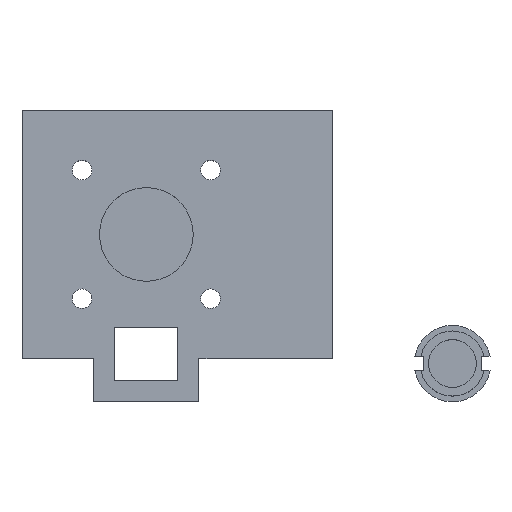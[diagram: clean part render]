
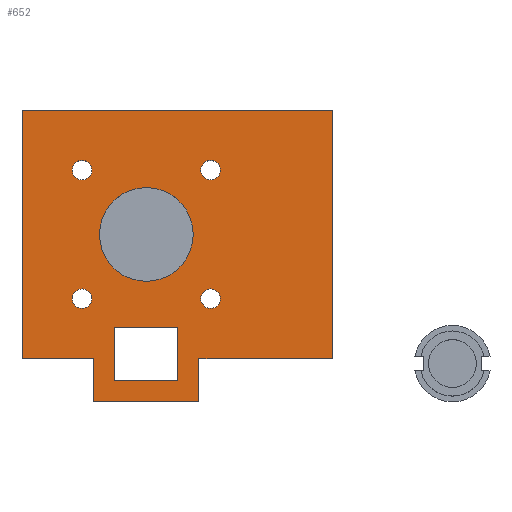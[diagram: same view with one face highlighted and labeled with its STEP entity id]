
A CAD part, top view. The second image highlights one B-rep face of the part: STEP entity #652.
In plain terms, the highlighted planar face has unit normal (0, 0, 1).
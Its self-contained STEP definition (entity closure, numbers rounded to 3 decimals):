
#17=FACE_BOUND('',#105,.T.);
#18=FACE_BOUND('',#106,.T.);
#19=FACE_BOUND('',#107,.T.);
#20=FACE_BOUND('',#108,.T.);
#21=FACE_BOUND('',#109,.T.);
#22=FACE_BOUND('',#110,.T.);
#37=PLANE('',#713);
#68=FACE_OUTER_BOUND('',#104,.T.);
#104=EDGE_LOOP('',(#498,#499,#500,#501,#502,#503,#504,#505));
#105=EDGE_LOOP('',(#506));
#106=EDGE_LOOP('',(#507));
#107=EDGE_LOOP('',(#508));
#108=EDGE_LOOP('',(#509));
#109=EDGE_LOOP('',(#510,#511,#512,#513));
#110=EDGE_LOOP('',(#514));
#143=LINE('',#958,#213);
#147=LINE('',#966,#217);
#150=LINE('',#972,#220);
#153=LINE('',#977,#223);
#159=LINE('',#994,#229);
#162=LINE('',#1000,#232);
#164=LINE('',#1005,#234);
#166=LINE('',#1009,#236);
#167=LINE('',#1011,#237);
#168=LINE('',#1013,#238);
#169=LINE('',#1015,#239);
#170=LINE('',#1016,#240);
#213=VECTOR('',#778,10.);
#217=VECTOR('',#784,10.);
#220=VECTOR('',#789,10.);
#223=VECTOR('',#794,10.);
#229=VECTOR('',#810,10.);
#232=VECTOR('',#815,10.);
#234=VECTOR('',#819,10.);
#236=VECTOR('',#823,10.);
#237=VECTOR('',#824,10.);
#238=VECTOR('',#825,10.);
#239=VECTOR('',#826,10.);
#240=VECTOR('',#827,10.);
#280=CIRCLE('',#692,2.05);
#282=CIRCLE('',#695,2.05);
#284=CIRCLE('',#698,2.05);
#286=CIRCLE('',#701,2.05);
#288=CIRCLE('',#708,9.8);
#300=VERTEX_POINT('',#934);
#302=VERTEX_POINT('',#940);
#304=VERTEX_POINT('',#946);
#306=VERTEX_POINT('',#952);
#307=VERTEX_POINT('',#956);
#308=VERTEX_POINT('',#957);
#311=VERTEX_POINT('',#965);
#313=VERTEX_POINT('',#971);
#316=VERTEX_POINT('',#982);
#318=VERTEX_POINT('',#988);
#320=VERTEX_POINT('',#992);
#322=VERTEX_POINT('',#998);
#323=VERTEX_POINT('',#1002);
#325=VERTEX_POINT('',#1008);
#326=VERTEX_POINT('',#1010);
#327=VERTEX_POINT('',#1012);
#328=VERTEX_POINT('',#1014);
#361=EDGE_CURVE('',#300,#300,#280,.T.);
#364=EDGE_CURVE('',#302,#302,#282,.T.);
#367=EDGE_CURVE('',#304,#304,#284,.T.);
#370=EDGE_CURVE('',#306,#306,#286,.T.);
#371=EDGE_CURVE('',#307,#308,#143,.T.);
#375=EDGE_CURVE('',#308,#311,#147,.T.);
#378=EDGE_CURVE('',#311,#313,#150,.T.);
#381=EDGE_CURVE('',#313,#307,#153,.T.);
#385=EDGE_CURVE('',#316,#316,#288,.T.);
#389=EDGE_CURVE('',#318,#320,#159,.T.);
#392=EDGE_CURVE('',#320,#322,#162,.T.);
#394=EDGE_CURVE('',#322,#323,#164,.T.);
#396=EDGE_CURVE('',#323,#325,#166,.T.);
#397=EDGE_CURVE('',#325,#326,#167,.T.);
#398=EDGE_CURVE('',#326,#327,#168,.T.);
#399=EDGE_CURVE('',#327,#328,#169,.T.);
#400=EDGE_CURVE('',#328,#318,#170,.T.);
#498=ORIENTED_EDGE('',*,*,#396,.T.);
#499=ORIENTED_EDGE('',*,*,#397,.T.);
#500=ORIENTED_EDGE('',*,*,#398,.T.);
#501=ORIENTED_EDGE('',*,*,#399,.T.);
#502=ORIENTED_EDGE('',*,*,#400,.T.);
#503=ORIENTED_EDGE('',*,*,#389,.T.);
#504=ORIENTED_EDGE('',*,*,#392,.T.);
#505=ORIENTED_EDGE('',*,*,#394,.T.);
#506=ORIENTED_EDGE('',*,*,#361,.T.);
#507=ORIENTED_EDGE('',*,*,#364,.T.);
#508=ORIENTED_EDGE('',*,*,#367,.T.);
#509=ORIENTED_EDGE('',*,*,#370,.T.);
#510=ORIENTED_EDGE('',*,*,#378,.T.);
#511=ORIENTED_EDGE('',*,*,#381,.T.);
#512=ORIENTED_EDGE('',*,*,#371,.T.);
#513=ORIENTED_EDGE('',*,*,#375,.T.);
#514=ORIENTED_EDGE('',*,*,#385,.T.);
#652=ADVANCED_FACE('',(#68,#17,#18,#19,#20,#21,#22),#37,.T.);
#692=AXIS2_PLACEMENT_3D('',#936,#753,#754);
#695=AXIS2_PLACEMENT_3D('',#942,#760,#761);
#698=AXIS2_PLACEMENT_3D('',#948,#767,#768);
#701=AXIS2_PLACEMENT_3D('',#954,#774,#775);
#708=AXIS2_PLACEMENT_3D('',#984,#801,#802);
#713=AXIS2_PLACEMENT_3D('',#1007,#821,#822);
#753=DIRECTION('center_axis',(0.,0.,-1.));
#754=DIRECTION('ref_axis',(1.,0.,0.));
#760=DIRECTION('center_axis',(0.,0.,-1.));
#761=DIRECTION('ref_axis',(1.,0.,0.));
#767=DIRECTION('center_axis',(0.,0.,-1.));
#768=DIRECTION('ref_axis',(1.,0.,0.));
#774=DIRECTION('center_axis',(0.,0.,-1.));
#775=DIRECTION('ref_axis',(1.,0.,0.));
#778=DIRECTION('',(1.,0.,0.));
#784=DIRECTION('',(0.,-1.,0.));
#789=DIRECTION('',(-1.,0.,0.));
#794=DIRECTION('',(0.,1.,0.));
#801=DIRECTION('center_axis',(0.,0.,-1.));
#802=DIRECTION('ref_axis',(1.,0.,0.));
#810=DIRECTION('',(0.,-1.,0.));
#815=DIRECTION('',(1.,0.,0.));
#819=DIRECTION('',(0.,1.,0.));
#821=DIRECTION('center_axis',(0.,0.,1.));
#822=DIRECTION('ref_axis',(1.,0.,0.));
#823=DIRECTION('',(1.,0.,0.));
#824=DIRECTION('',(0.,1.,0.));
#825=DIRECTION('',(-1.,0.,0.));
#826=DIRECTION('',(0.,-1.,0.));
#827=DIRECTION('',(1.,0.,0.));
#934=CARTESIAN_POINT('',(37.385,21.565,8.));
#936=CARTESIAN_POINT('Origin',(39.435,21.565,8.));
#940=CARTESIAN_POINT('',(10.515,21.565,8.));
#942=CARTESIAN_POINT('Origin',(12.565,21.565,8.));
#946=CARTESIAN_POINT('',(10.515,48.435,8.));
#948=CARTESIAN_POINT('Origin',(12.565,48.435,8.));
#952=CARTESIAN_POINT('',(37.385,48.435,8.));
#954=CARTESIAN_POINT('Origin',(39.435,48.435,8.));
#956=CARTESIAN_POINT('',(19.4,15.6,8.));
#957=CARTESIAN_POINT('',(32.6,15.6,8.));
#958=CARTESIAN_POINT('',(29.25,15.6,8.));
#965=CARTESIAN_POINT('',(32.6,4.4,8.));
#966=CARTESIAN_POINT('',(32.6,22.5,8.));
#971=CARTESIAN_POINT('',(19.4,4.4,8.));
#972=CARTESIAN_POINT('',(29.25,4.4,8.));
#977=CARTESIAN_POINT('',(19.4,22.5,8.));
#982=CARTESIAN_POINT('',(16.2,35.,8.));
#984=CARTESIAN_POINT('Origin',(26.,35.,8.));
#988=CARTESIAN_POINT('',(15.,9.,8.));
#992=CARTESIAN_POINT('',(15.,0.,8.));
#994=CARTESIAN_POINT('',(15.,10.,8.));
#998=CARTESIAN_POINT('',(37.,0.,8.));
#1000=CARTESIAN_POINT('',(26.,0.,8.));
#1002=CARTESIAN_POINT('',(37.,9.,8.));
#1005=CARTESIAN_POINT('',(37.,10.,8.));
#1007=CARTESIAN_POINT('Origin',(32.5,35.,8.));
#1008=CARTESIAN_POINT('',(65.,9.,8.));
#1009=CARTESIAN_POINT('',(32.5,9.,8.));
#1010=CARTESIAN_POINT('',(65.,61.,8.));
#1011=CARTESIAN_POINT('',(65.,35.,8.));
#1012=CARTESIAN_POINT('',(0.,61.,8.));
#1013=CARTESIAN_POINT('',(32.5,61.,8.));
#1014=CARTESIAN_POINT('',(0.,9.,8.));
#1015=CARTESIAN_POINT('',(0.,35.,8.));
#1016=CARTESIAN_POINT('',(32.5,9.,8.));
